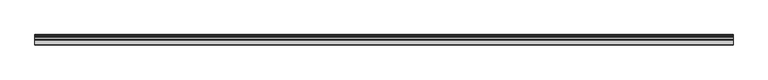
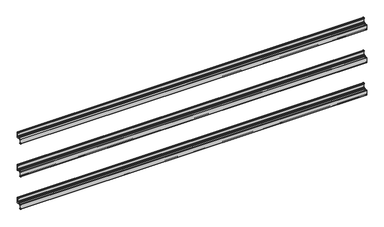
"""IFC4 building model written with IfcOpenShell, lengths in millimetres: fastener geometry."""

from ifc_helpers import new_model, si_unit, frame, origin, place, context, project, spatial, polyline, circle_curve, outline, extrude, source, transform, mapped, element, save
from ifc_brep_helpers import plane_surface, cylinder_surface, revolved_surface, advanced_brep


def fastener_f7e8d427(model_context):
    return source(origin(), model_context, "Body", "SolidModel", [
        advanced_brep(
        [(2540.0, -3.556, 1898.269), (2540.0, -3.556, 1867.281), (2540.0, -5.2832, 1867.281), (2540.0, -5.2832, 1871.472), (2540.0, -7.3152, 1871.472), (2540.0, -7.3152, 1867.281), (2540.0, -8.0772, 1866.519), (2540.0, -17.7601563, 1866.519), (2540.0, -17.7601563, 1867.3674433), (2540.0, -20.4288947, 1867.3674433), (2540.0, -20.4288947, 1866.519), (2540.0, -37.3379766, 1866.519), (2540.0, -38.0999766, 1865.757), (2540.0, -38.1, 1829.5196758), (2540.0, -37.3379766, 1828.8), (2540.0, -33.7057766, 1828.8), (2540.0, -31.6737766, 1830.832), (2540.0, -31.6737766, 1833.118), (2540.0, -33.7057766, 1833.118), (2540.0, -33.7057766, 1832.102), (2540.0, -35.4329766, 1832.102), (2540.0, -35.4329766, 1863.09), (2540.0, -33.7057766, 1863.09), (2540.0, -33.7057766, 1858.899), (2540.0, -31.6737766, 1858.899), (2540.0, -31.6737766, 1863.09), (2540.0, -30.9117766, 1863.852), (2540.0, -20.4279799, 1863.852), (2540.0, -20.4279799, 1863.0030993), (2540.0, -17.7601563, 1863.0030993), (2540.0, -17.7601563, 1863.852), (2540.0, -3.429, 1863.852), (2540.0, -2.667, 1863.09), (2540.0, -2.667, 1856.994), (2540.0, 0.0, 1856.994), (2540.0, 0.0, 1900.809), (2540.0, -0.762, 1901.571), (2540.0, -5.2832, 1901.571), (2540.0, -7.3152, 1899.539), (2540.0, -7.3152, 1897.253), (2540.0, -5.2832, 1897.253), (2540.0, -5.2832, 1898.269), (0.0, -3.556, 1898.269), (0.0, -5.2832, 1898.269), (0.0, -5.2832, 1897.253), (0.0, -7.3152, 1897.253), (0.0, -7.3152, 1899.539), (0.0, -5.2832, 1901.571), (0.0, -0.762, 1901.571), (0.0, 0.0, 1900.809), (0.0, 0.0, 1856.994), (0.0, -2.667, 1856.994), (0.0, -2.667, 1863.09), (0.0, -3.429, 1863.852), (0.0, -17.7601563, 1863.852), (0.0, -17.7601563, 1863.0030993), (0.0, -20.4279799, 1863.0030993), (0.0, -20.4279799, 1863.852), (0.0, -30.9117766, 1863.852), (0.0, -31.6737766, 1863.09), (0.0, -31.6737766, 1858.899), (0.0, -33.7057766, 1858.899), (0.0, -33.7057766, 1863.09), (0.0, -35.4329766, 1863.09), (0.0, -35.4329766, 1832.102), (0.0, -33.7057766, 1832.102), (0.0, -33.7057766, 1833.118), (0.0, -31.6737766, 1833.118), (0.0, -31.6737766, 1830.832), (0.0, -33.7057766, 1828.8), (0.0, -37.3379766, 1828.8), (0.0, -38.0999766, 1829.562), (0.0, -38.1, 1865.6242174), (0.0, -37.3379766, 1866.519), (0.0, -20.4288947, 1866.519), (0.0, -20.4288947, 1867.3674433), (0.0, -17.7601563, 1867.3674433), (0.0, -17.7601563, 1866.519), (0.0, -8.0772, 1866.519), (0.0, -7.3152, 1867.281), (0.0, -7.3152, 1871.472), (0.0, -5.2832, 1871.472), (0.0, -5.2832, 1867.281), (0.0, -3.556, 1867.281)],
        [
            (0, 1),
            (1, 2, circle_curve(frame((2540.0, -4.4196, 1867.281), z_axis=(-1.0, 0.0, 0.0), x_axis=(0.0, 1.0, 0.0)), 0.8636)),
            (2, 3),
            (3, 4, circle_curve(frame((2540.0, -6.2992, 1871.472), z_axis=(1.0, 0.0, 0.0), x_axis=(0.0, 1.0, 0.0)), 1.016)),
            (4, 5),
            (5, 6, circle_curve(frame((2540.0, -8.0772, 1867.281), z_axis=(-1.0, 0.0, 0.0), x_axis=(0.0, 1.0, 0.0)), 0.762)),
            (6, 7),
            (7, 8),
            (8, 9, circle_curve(frame((2540.0, -19.0945255, 1867.3674433), z_axis=(1.0, 0.0, 0.0), x_axis=(0.0, 1.0, 0.0)), 1.3343692)),
            (9, 10),
            (10, 11),
            (11, 12, circle_curve(frame((2540.0, -37.3379766, 1865.757), z_axis=(1.0, 0.0, 0.0), x_axis=(0.0, 1.0, 0.0)), 0.762)),
            (12, 13),
            (13, 14, circle_curve(frame((2540.0, -37.3379766, 1829.562), z_axis=(1.0, 0.0, 0.0), x_axis=(0.0, 1.0, 0.0)), 0.762)),
            (14, 15),
            (15, 16, circle_curve(frame((2540.0, -33.7057766, 1830.832), z_axis=(1.0, 0.0, 0.0), x_axis=(0.0, 1.0, 0.0)), 2.032)),
            (16, 17),
            (17, 18, circle_curve(frame((2540.0, -32.6897766, 1833.118), z_axis=(1.0, 0.0, 0.0), x_axis=(0.0, 1.0, 0.0)), 1.016)),
            (18, 19),
            (19, 20, circle_curve(frame((2540.0, -34.5693766, 1832.102), z_axis=(-1.0, 0.0, 0.0), x_axis=(0.0, 1.0, 0.0)), 0.8636)),
            (20, 21),
            (21, 22, circle_curve(frame((2540.0, -34.5693766, 1863.09), z_axis=(-1.0, 0.0, 0.0), x_axis=(0.0, 1.0, 0.0)), 0.8636)),
            (22, 23),
            (23, 24, circle_curve(frame((2540.0, -32.6897766, 1858.899), z_axis=(1.0, 0.0, 0.0), x_axis=(0.0, 1.0, 0.0)), 1.016)),
            (24, 25),
            (25, 26, circle_curve(frame((2540.0, -30.9117766, 1863.09), z_axis=(-1.0, 0.0, 0.0), x_axis=(0.0, 1.0, 0.0)), 0.762)),
            (26, 27),
            (27, 28),
            (28, 29, circle_curve(frame((2540.0, -19.0940681, 1863.0030993), z_axis=(1.0, 0.0, 0.0), x_axis=(0.0, 1.0, 0.0)), 1.3339118)),
            (29, 30),
            (30, 31),
            (31, 32, circle_curve(frame((2540.0, -3.429, 1863.09), z_axis=(-1.0, 0.0, 0.0), x_axis=(0.0, 1.0, 0.0)), 0.762)),
            (32, 33),
            (33, 34, circle_curve(frame((2540.0, -1.3335, 1856.994), z_axis=(1.0, 0.0, 0.0), x_axis=(0.0, 1.0, 0.0)), 1.3335)),
            (34, 35),
            (35, 36, circle_curve(frame((2540.0, -0.762, 1900.809), z_axis=(1.0, 0.0, 0.0), x_axis=(0.0, 1.0, 0.0)), 0.762)),
            (36, 37),
            (37, 38, circle_curve(frame((2540.0, -5.2832, 1899.539), z_axis=(1.0, 0.0, 0.0), x_axis=(0.0, 1.0, 0.0)), 2.032)),
            (38, 39),
            (39, 40, circle_curve(frame((2540.0, -6.2992, 1897.253), z_axis=(1.0, 0.0, 0.0), x_axis=(0.0, 1.0, 0.0)), 1.016)),
            (40, 41),
            (41, 0, circle_curve(frame((2540.0, -4.4196, 1898.269), z_axis=(-1.0, 0.0, 0.0), x_axis=(0.0, 1.0, 0.0)), 0.8636)),
            (42, 43, circle_curve(frame((0.0, -4.4196, 1898.269), z_axis=(1.0, 0.0, 0.0), x_axis=(0.0, 1.0, 0.0)), 0.8636)),
            (43, 44),
            (44, 45, circle_curve(frame((0.0, -6.2992, 1897.253), z_axis=(-1.0, 0.0, 0.0), x_axis=(0.0, 1.0, 0.0)), 1.016)),
            (45, 46),
            (46, 47, circle_curve(frame((0.0, -5.2832, 1899.539), z_axis=(-1.0, 0.0, 0.0), x_axis=(0.0, 1.0, 0.0)), 2.032)),
            (47, 48),
            (48, 49, circle_curve(frame((0.0, -0.762, 1900.809), z_axis=(-1.0, 0.0, 0.0), x_axis=(0.0, 1.0, 0.0)), 0.762)),
            (49, 50),
            (50, 51, circle_curve(frame((0.0, -1.3335, 1856.994), z_axis=(-1.0, 0.0, 0.0), x_axis=(0.0, 1.0, 0.0)), 1.3335)),
            (51, 52),
            (52, 53, circle_curve(frame((0.0, -3.429, 1863.09), z_axis=(1.0, 0.0, 0.0), x_axis=(0.0, 1.0, 0.0)), 0.762)),
            (53, 54),
            (54, 55),
            (55, 56, circle_curve(frame((0.0, -19.0940681, 1863.0030993), z_axis=(-1.0, 0.0, 0.0), x_axis=(0.0, 1.0, 0.0)), 1.3339118)),
            (56, 57),
            (57, 58),
            (58, 59, circle_curve(frame((0.0, -30.9117766, 1863.09), z_axis=(1.0, 0.0, 0.0), x_axis=(0.0, 1.0, 0.0)), 0.762)),
            (59, 60),
            (60, 61, circle_curve(frame((0.0, -32.6897766, 1858.899), z_axis=(-1.0, 0.0, 0.0), x_axis=(0.0, 1.0, 0.0)), 1.016)),
            (61, 62),
            (62, 63, circle_curve(frame((0.0, -34.5693766, 1863.09), z_axis=(1.0, 0.0, 0.0), x_axis=(0.0, 1.0, 0.0)), 0.8636)),
            (63, 64),
            (64, 65, circle_curve(frame((0.0, -34.5693766, 1832.102), z_axis=(1.0, 0.0, 0.0), x_axis=(0.0, 1.0, 0.0)), 0.8636)),
            (65, 66),
            (66, 67, circle_curve(frame((0.0, -32.6897766, 1833.118), z_axis=(-1.0, 0.0, 0.0), x_axis=(0.0, 1.0, 0.0)), 1.016)),
            (67, 68),
            (68, 69, circle_curve(frame((0.0, -33.7057766, 1830.832), z_axis=(-1.0, 0.0, 0.0), x_axis=(0.0, 1.0, 0.0)), 2.032)),
            (69, 70),
            (70, 71, circle_curve(frame((0.0, -37.3379766, 1829.562), z_axis=(-1.0, 0.0, 0.0), x_axis=(0.0, 1.0, 0.0)), 0.762)),
            (71, 72),
            (72, 73, circle_curve(frame((0.0, -37.3379766, 1865.757), z_axis=(-1.0, 0.0, 0.0), x_axis=(0.0, 1.0, 0.0)), 0.762)),
            (73, 74),
            (74, 75),
            (75, 76, circle_curve(frame((0.0, -19.0945255, 1867.3674433), z_axis=(-1.0, 0.0, 0.0), x_axis=(0.0, 1.0, 0.0)), 1.3343692)),
            (76, 77),
            (77, 78),
            (78, 79, circle_curve(frame((0.0, -8.0772, 1867.281), z_axis=(1.0, 0.0, 0.0), x_axis=(0.0, 1.0, 0.0)), 0.762)),
            (79, 80),
            (80, 81, circle_curve(frame((0.0, -6.2992, 1871.472), z_axis=(-1.0, 0.0, 0.0), x_axis=(0.0, 1.0, 0.0)), 1.016)),
            (81, 82),
            (82, 83, circle_curve(frame((0.0, -4.4196, 1867.281), z_axis=(1.0, 0.0, 0.0), x_axis=(0.0, 1.0, 0.0)), 0.8636)),
            (83, 42),
            (0, 42),
            (83, 1),
            (82, 2),
            (81, 3),
            (80, 4),
            (79, 5),
            (78, 6),
            (77, 7),
            (76, 8),
            (75, 9),
            (74, 10),
            (73, 11),
            (72, 12),
            (71, 13),
            (70, 14),
            (69, 15),
            (68, 16),
            (67, 17),
            (66, 18),
            (65, 19),
            (64, 20),
            (63, 21),
            (62, 22),
            (61, 23),
            (60, 24),
            (59, 25),
            (58, 26),
            (57, 27),
            (56, 28),
            (55, 29),
            (54, 30),
            (53, 31),
            (52, 32),
            (51, 33),
            (50, 34),
            (49, 35),
            (48, 36),
            (47, 37),
            (46, 38),
            (45, 39),
            (44, 40),
            (43, 41),
        ],
        [
            plane_surface(frame((2540.0, -3.556, 1867.281), z_axis=(1.0, 0.0, 0.0), x_axis=(0.0, 0.0, -1.0))),
            plane_surface(frame((0.0, -3.556, 1867.281), z_axis=(-1.0, 0.0, 0.0), x_axis=(0.0, 0.0, 1.0))),
            plane_surface(frame((2540.0, -3.556, 1898.269), z_axis=(0.0, -1.0, 0.0), x_axis=(-1.0, 0.0, 0.0))),
            revolved_surface(polyline([(0.0, -3.556, 1867.281), (2540.0, -3.556, 1867.281)]), (0.0, -4.4196, 1867.281), (-1.0, 0.0, 0.0)),
            plane_surface(frame((2540.0, -5.2832, 1867.281), z_axis=(0.0, 1.0, 0.0), x_axis=(-1.0, 0.0, 0.0))),
            cylinder_surface(frame((0.0, -6.2992, 1871.472), z_axis=(1.0, 0.0, 0.0), x_axis=(0.0, 1.0, 0.0)), 1.016),
            plane_surface(frame((2540.0, -7.3152, 1871.472), z_axis=(0.0, -1.0, 0.0), x_axis=(-1.0, 0.0, 0.0))),
            revolved_surface(polyline([(0.0, -7.315199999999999, 1867.281), (2540.0, -7.315199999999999, 1867.281)]), (0.0, -8.0772, 1867.281), (-1.0, 0.0, 0.0)),
            plane_surface(frame((2540.0, -8.0772, 1866.519), z_axis=(0.0, 0.0, 1.0), x_axis=(-1.0, 0.0, 0.0))),
            plane_surface(frame((2540.0, -17.7601563, 1866.519), z_axis=(0.0, 1.0, 0.0), x_axis=(-1.0, 0.0, 0.0))),
            cylinder_surface(frame((0.0, -19.0945255, 1867.3674433), z_axis=(1.0, 0.0, 0.0), x_axis=(0.0, 1.0, 0.0)), 1.3343692),
            plane_surface(frame((2540.0, -20.4288947, 1867.3674433), z_axis=(0.0, -1.0, 0.0), x_axis=(-1.0, 0.0, 0.0))),
            plane_surface(frame((2540.0, -20.4288947, 1866.519), z_axis=(0.0, 0.0, 1.0), x_axis=(-1.0, 0.0, 0.0))),
            cylinder_surface(frame((0.0, -37.3379766, 1865.757), z_axis=(1.0, 0.0, 0.0), x_axis=(0.0, 1.0, 0.0)), 0.762),
            plane_surface(frame((2540.0, -38.1, 1865.6242174), z_axis=(0.0, -1.0, 0.0), x_axis=(-1.0, 0.0, 0.0))),
            cylinder_surface(frame((0.0, -37.3379766, 1829.562), z_axis=(1.0, 0.0, 0.0), x_axis=(0.0, 1.0, 0.0)), 0.762),
            plane_surface(frame((2540.0, -37.3379766, 1828.8), z_axis=(0.0, 1.080720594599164e-12, -1.0), x_axis=(-1.0, 0.0, 0.0))),
            cylinder_surface(frame((0.0, -33.7057766, 1830.832), z_axis=(1.0, 0.0, 0.0), x_axis=(0.0, 1.0, 0.0)), 2.032),
            plane_surface(frame((2540.0, -31.6737766, 1830.832), z_axis=(0.0, 1.0, 0.0), x_axis=(-1.0, 0.0, 0.0))),
            cylinder_surface(frame((0.0, -32.6897766, 1833.118), z_axis=(1.0, 0.0, 0.0), x_axis=(0.0, 1.0, 0.0)), 1.016),
            plane_surface(frame((2540.0, -33.7057766, 1833.118), z_axis=(0.0, -1.0, 0.0), x_axis=(-1.0, 0.0, 0.0))),
            revolved_surface(polyline([(0.0, -33.7057766, 1832.102), (2540.0, -33.7057766, 1832.102)]), (0.0, -34.5693766, 1832.102), (-1.0, 0.0, 0.0)),
            plane_surface(frame((2540.0, -35.4329766, 1832.102), z_axis=(0.0, 1.0, 0.0), x_axis=(-1.0, 0.0, 0.0))),
            revolved_surface(polyline([(0.0, -33.7057766, 1863.09), (2540.0, -33.7057766, 1863.09)]), (0.0, -34.5693766, 1863.09), (-1.0, 0.0, 0.0)),
            plane_surface(frame((2540.0, -33.7057766, 1863.09), z_axis=(0.0, -1.0, 0.0), x_axis=(-1.0, 0.0, 0.0))),
            cylinder_surface(frame((0.0, -32.6897766, 1858.899), z_axis=(1.0, 0.0, 0.0), x_axis=(0.0, 1.0, 0.0)), 1.016),
            plane_surface(frame((2540.0, -31.6737766, 1858.899), z_axis=(0.0, 1.0, 0.0), x_axis=(-1.0, 0.0, 0.0))),
            revolved_surface(polyline([(0.0, -30.1497766, 1863.09), (2540.0, -30.1497766, 1863.09)]), (0.0, -30.9117766, 1863.09), (-1.0, 0.0, 0.0)),
            plane_surface(frame((2540.0, -30.9117766, 1863.852), z_axis=(0.0, 0.0, -1.0), x_axis=(-1.0, 0.0, 0.0))),
            plane_surface(frame((2540.0, -20.4279799, 1863.852), z_axis=(0.0, -1.0, 0.0), x_axis=(-1.0, 0.0, 0.0))),
            cylinder_surface(frame((0.0, -19.0940681, 1863.0030993), z_axis=(1.0, 0.0, 0.0), x_axis=(0.0, 1.0, 0.0)), 1.3339118),
            plane_surface(frame((2540.0, -17.7601563, 1863.0030993), z_axis=(0.0, 1.0, 0.0), x_axis=(-1.0, 0.0, 0.0))),
            plane_surface(frame((2540.0, -17.7601563, 1863.852), z_axis=(0.0, 0.0, -1.0), x_axis=(-1.0, 0.0, 0.0))),
            revolved_surface(polyline([(0.0, -2.667, 1863.09), (2540.0, -2.667, 1863.09)]), (0.0, -3.429, 1863.09), (-1.0, 0.0, 0.0)),
            plane_surface(frame((2540.0, -2.667, 1863.09), z_axis=(0.0, -1.0, 0.0), x_axis=(-1.0, 0.0, 0.0))),
            cylinder_surface(frame((0.0, -1.3335, 1856.994), z_axis=(1.0, 0.0, 0.0), x_axis=(0.0, 1.0, 0.0)), 1.3335),
            plane_surface(frame((2540.0, 0.0, 1856.994), z_axis=(0.0, 1.0, 0.0), x_axis=(-1.0, 0.0, 0.0))),
            cylinder_surface(frame((0.0, -0.762, 1900.809), z_axis=(1.0, 0.0, 0.0), x_axis=(0.0, 1.0, 0.0)), 0.762),
            plane_surface(frame((2540.0, -0.762, 1901.571), z_axis=(0.0, 1.6915308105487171e-12, 1.0), x_axis=(-1.0, 0.0, 0.0))),
            cylinder_surface(frame((0.0, -5.2832, 1899.539), z_axis=(1.0, 0.0, 0.0), x_axis=(0.0, 1.0, 0.0)), 2.032),
            plane_surface(frame((2540.0, -7.3152, 1899.539), z_axis=(0.0, -1.0, 0.0), x_axis=(-1.0, 0.0, 0.0))),
            cylinder_surface(frame((0.0, -6.2992, 1897.253), z_axis=(1.0, 0.0, 0.0), x_axis=(0.0, 1.0, 0.0)), 1.016),
            plane_surface(frame((2540.0, -5.2832, 1897.253), z_axis=(0.0, 1.0, 0.0), x_axis=(-1.0, 0.0, 0.0))),
            revolved_surface(polyline([(0.0, -3.556, 1898.269), (2540.0, -3.556, 1898.269)]), (0.0, -4.4196, 1898.269), (-1.0, 0.0, 0.0)),
        ],
        [
            (0, [[1, 2, 3, 4, 5, 6, 7, 8, 9, 10, 11, 12, 13, 14, 15, 16, 17, 18, 19, 20, 21, 22, 23, 24, 25, 26, 27, 28, 29, 30, 31, 32, 33, 34, 35, 36, 37, 38, 39, 40, 41, 42]]),
            (1, [[43, 44, 45, 46, 47, 48, 49, 50, 51, 52, 53, 54, 55, 56, 57, 58, 59, 60, 61, 62, 63, 64, 65, 66, 67, 68, 69, 70, 71, 72, 73, 74, 75, 76, 77, 78, 79, 80, 81, 82, 83, 84]]),
            (2, [[-1, 85, -84, 86]]),
            (3, [[-2, -86, -83, 87]]),
            (4, [[-3, -87, -82, 88]]),
            (5, [[-4, -88, -81, 89]]),
            (6, [[-5, -89, -80, 90]]),
            (7, [[-6, -90, -79, 91]]),
            (8, [[-7, -91, -78, 92]]),
            (9, [[-8, -92, -77, 93]]),
            (10, [[-9, -93, -76, 94]]),
            (11, [[-10, -94, -75, 95]]),
            (12, [[-11, -95, -74, 96]]),
            (13, [[-12, -96, -73, 97]]),
            (14, [[-13, -97, -72, 98]]),
            (15, [[-14, -98, -71, 99]]),
            (16, [[-15, -99, -70, 100]]),
            (17, [[-16, -100, -69, 101]]),
            (18, [[-17, -101, -68, 102]]),
            (19, [[-18, -102, -67, 103]]),
            (20, [[-19, -103, -66, 104]]),
            (21, [[-20, -104, -65, 105]]),
            (22, [[-21, -105, -64, 106]]),
            (23, [[-22, -106, -63, 107]]),
            (24, [[-23, -107, -62, 108]]),
            (25, [[-24, -108, -61, 109]]),
            (26, [[-25, -109, -60, 110]]),
            (27, [[-26, -110, -59, 111]]),
            (28, [[-27, -111, -58, 112]]),
            (29, [[-28, -112, -57, 113]]),
            (30, [[-29, -113, -56, 114]]),
            (31, [[-30, -114, -55, 115]]),
            (32, [[-31, -115, -54, 116]]),
            (33, [[-32, -116, -53, 117]]),
            (34, [[-33, -117, -52, 118]]),
            (35, [[-34, -118, -51, 119]]),
            (36, [[-35, -119, -50, 120]]),
            (37, [[-36, -120, -49, 121]]),
            (38, [[-37, -121, -48, 122]]),
            (39, [[-38, -122, -47, 123]]),
            (40, [[-39, -123, -46, 124]]),
            (41, [[-40, -124, -45, 125]]),
            (42, [[-41, -125, -44, 126]]),
            (43, [[-42, -126, -43, -85]]),
        ],
    ),
        extrude(outline(polyline([(2540.0, -3.556), (2540.0, -5.2832), (0.0, -5.2832), (0.0, -3.556), (2540.0, -3.556)])), frame((0.0, 0.0, 1867.281), z_axis=(0.0, 0.0, 1.0), x_axis=(1.0, 0.0, 0.0)), (0.0, 0.0, 1.0), 30.988),
        extrude(outline(polyline([(2540.0, -33.7057766), (2540.0, -35.4329766), (0.0, -35.4329766), (0.0, -33.7057766), (2540.0, -33.7057766)])), frame((0.0, 0.0, 1832.102), z_axis=(0.0, 0.0, 1.0), x_axis=(1.0, 0.0, 0.0)), (0.0, 0.0, 1.0), 30.988),
        advanced_brep(
        [(2540.0, -3.556, 1644.269), (2540.0, -3.556, 1613.281), (2540.0, -5.2832, 1613.281), (2540.0, -5.2832, 1617.472), (2540.0, -7.3152, 1617.472), (2540.0, -7.3152, 1613.281), (2540.0, -8.0772, 1612.519), (2540.0, -17.7601563, 1612.519), (2540.0, -17.7601563, 1613.3674433), (2540.0, -20.4288947, 1613.3674433), (2540.0, -20.4288947, 1612.519), (2540.0, -37.3379766, 1612.519), (2540.0, -38.0999766, 1611.757), (2540.0, -38.1, 1575.5196758), (2540.0, -37.3379766, 1574.8), (2540.0, -33.7057766, 1574.8), (2540.0, -31.6737766, 1576.832), (2540.0, -31.6737766, 1579.118), (2540.0, -33.7057766, 1579.118), (2540.0, -33.7057766, 1578.102), (2540.0, -35.4329766, 1578.102), (2540.0, -35.4329766, 1609.09), (2540.0, -33.7057766, 1609.09), (2540.0, -33.7057766, 1604.899), (2540.0, -31.6737766, 1604.899), (2540.0, -31.6737766, 1609.09), (2540.0, -30.9117766, 1609.852), (2540.0, -20.4279799, 1609.852), (2540.0, -20.4279799, 1609.0030993), (2540.0, -17.7601563, 1609.0030993), (2540.0, -17.7601563, 1609.852), (2540.0, -3.429, 1609.852), (2540.0, -2.667, 1609.09), (2540.0, -2.667, 1602.994), (2540.0, 0.0, 1602.994), (2540.0, 0.0, 1646.809), (2540.0, -0.762, 1647.571), (2540.0, -5.2832, 1647.571), (2540.0, -7.3152, 1645.539), (2540.0, -7.3152, 1643.253), (2540.0, -5.2832, 1643.253), (2540.0, -5.2832, 1644.269), (0.0, -3.556, 1644.269), (0.0, -5.2832, 1644.269), (0.0, -5.2832, 1643.253), (0.0, -7.3152, 1643.253), (0.0, -7.3152, 1645.539), (0.0, -5.2832, 1647.571), (0.0, -0.762, 1647.571), (0.0, 0.0, 1646.809), (0.0, 0.0, 1602.994), (0.0, -2.667, 1602.994), (0.0, -2.667, 1609.09), (0.0, -3.429, 1609.852), (0.0, -17.7601563, 1609.852), (0.0, -17.7601563, 1609.0030993), (0.0, -20.4279799, 1609.0030993), (0.0, -20.4279799, 1609.852), (0.0, -30.9117766, 1609.852), (0.0, -31.6737766, 1609.09), (0.0, -31.6737766, 1604.899), (0.0, -33.7057766, 1604.899), (0.0, -33.7057766, 1609.09), (0.0, -35.4329766, 1609.09), (0.0, -35.4329766, 1578.102), (0.0, -33.7057766, 1578.102), (0.0, -33.7057766, 1579.118), (0.0, -31.6737766, 1579.118), (0.0, -31.6737766, 1576.832), (0.0, -33.7057766, 1574.8), (0.0, -37.3379766, 1574.8), (0.0, -38.0999766, 1575.562), (0.0, -38.1, 1611.6242174), (0.0, -37.3379766, 1612.519), (0.0, -20.4288947, 1612.519), (0.0, -20.4288947, 1613.3674433), (0.0, -17.7601563, 1613.3674433), (0.0, -17.7601563, 1612.519), (0.0, -8.0772, 1612.519), (0.0, -7.3152, 1613.281), (0.0, -7.3152, 1617.472), (0.0, -5.2832, 1617.472), (0.0, -5.2832, 1613.281), (0.0, -3.556, 1613.281)],
        [
            (0, 1),
            (1, 2, circle_curve(frame((2540.0, -4.4196, 1613.281), z_axis=(-1.0, 0.0, 0.0), x_axis=(0.0, 1.0, 0.0)), 0.8636)),
            (2, 3),
            (3, 4, circle_curve(frame((2540.0, -6.2992, 1617.472), z_axis=(1.0, 0.0, 0.0), x_axis=(0.0, 1.0, 0.0)), 1.016)),
            (4, 5),
            (5, 6, circle_curve(frame((2540.0, -8.0772, 1613.281), z_axis=(-1.0, 0.0, 0.0), x_axis=(0.0, 1.0, 0.0)), 0.762)),
            (6, 7),
            (7, 8),
            (8, 9, circle_curve(frame((2540.0, -19.0945255, 1613.3674433), z_axis=(1.0, 0.0, 0.0), x_axis=(0.0, 1.0, 0.0)), 1.3343692)),
            (9, 10),
            (10, 11),
            (11, 12, circle_curve(frame((2540.0, -37.3379766, 1611.757), z_axis=(1.0, 0.0, 0.0), x_axis=(0.0, 1.0, 0.0)), 0.762)),
            (12, 13),
            (13, 14, circle_curve(frame((2540.0, -37.3379766, 1575.562), z_axis=(1.0, 0.0, 0.0), x_axis=(0.0, 1.0, 0.0)), 0.762)),
            (14, 15),
            (15, 16, circle_curve(frame((2540.0, -33.7057766, 1576.832), z_axis=(1.0, 0.0, 0.0), x_axis=(0.0, 1.0, 0.0)), 2.032)),
            (16, 17),
            (17, 18, circle_curve(frame((2540.0, -32.6897766, 1579.118), z_axis=(1.0, 0.0, 0.0), x_axis=(0.0, 1.0, 0.0)), 1.016)),
            (18, 19),
            (19, 20, circle_curve(frame((2540.0, -34.5693766, 1578.102), z_axis=(-1.0, 0.0, 0.0), x_axis=(0.0, 1.0, 0.0)), 0.8636)),
            (20, 21),
            (21, 22, circle_curve(frame((2540.0, -34.5693766, 1609.09), z_axis=(-1.0, 0.0, 0.0), x_axis=(0.0, 1.0, 0.0)), 0.8636)),
            (22, 23),
            (23, 24, circle_curve(frame((2540.0, -32.6897766, 1604.899), z_axis=(1.0, 0.0, 0.0), x_axis=(0.0, 1.0, 0.0)), 1.016)),
            (24, 25),
            (25, 26, circle_curve(frame((2540.0, -30.9117766, 1609.09), z_axis=(-1.0, 0.0, 0.0), x_axis=(0.0, 1.0, 0.0)), 0.762)),
            (26, 27),
            (27, 28),
            (28, 29, circle_curve(frame((2540.0, -19.0940681, 1609.0030993), z_axis=(1.0, 0.0, 0.0), x_axis=(0.0, 1.0, 0.0)), 1.3339118)),
            (29, 30),
            (30, 31),
            (31, 32, circle_curve(frame((2540.0, -3.429, 1609.09), z_axis=(-1.0, 0.0, 0.0), x_axis=(0.0, 1.0, 0.0)), 0.762)),
            (32, 33),
            (33, 34, circle_curve(frame((2540.0, -1.3335, 1602.994), z_axis=(1.0, 0.0, 0.0), x_axis=(0.0, 1.0, 0.0)), 1.3335)),
            (34, 35),
            (35, 36, circle_curve(frame((2540.0, -0.762, 1646.809), z_axis=(1.0, 0.0, 0.0), x_axis=(0.0, 1.0, 0.0)), 0.762)),
            (36, 37),
            (37, 38, circle_curve(frame((2540.0, -5.2832, 1645.539), z_axis=(1.0, 0.0, 0.0), x_axis=(0.0, 1.0, 0.0)), 2.032)),
            (38, 39),
            (39, 40, circle_curve(frame((2540.0, -6.2992, 1643.253), z_axis=(1.0, 0.0, 0.0), x_axis=(0.0, 1.0, 0.0)), 1.016)),
            (40, 41),
            (41, 0, circle_curve(frame((2540.0, -4.4196, 1644.269), z_axis=(-1.0, 0.0, 0.0), x_axis=(0.0, 1.0, 0.0)), 0.8636)),
            (42, 43, circle_curve(frame((0.0, -4.4196, 1644.269), z_axis=(1.0, 0.0, 0.0), x_axis=(0.0, 1.0, 0.0)), 0.8636)),
            (43, 44),
            (44, 45, circle_curve(frame((0.0, -6.2992, 1643.253), z_axis=(-1.0, 0.0, 0.0), x_axis=(0.0, 1.0, 0.0)), 1.016)),
            (45, 46),
            (46, 47, circle_curve(frame((0.0, -5.2832, 1645.539), z_axis=(-1.0, 0.0, 0.0), x_axis=(0.0, 1.0, 0.0)), 2.032)),
            (47, 48),
            (48, 49, circle_curve(frame((0.0, -0.762, 1646.809), z_axis=(-1.0, 0.0, 0.0), x_axis=(0.0, 1.0, 0.0)), 0.762)),
            (49, 50),
            (50, 51, circle_curve(frame((0.0, -1.3335, 1602.994), z_axis=(-1.0, 0.0, 0.0), x_axis=(0.0, 1.0, 0.0)), 1.3335)),
            (51, 52),
            (52, 53, circle_curve(frame((0.0, -3.429, 1609.09), z_axis=(1.0, 0.0, 0.0), x_axis=(0.0, 1.0, 0.0)), 0.762)),
            (53, 54),
            (54, 55),
            (55, 56, circle_curve(frame((0.0, -19.0940681, 1609.0030993), z_axis=(-1.0, 0.0, 0.0), x_axis=(0.0, 1.0, 0.0)), 1.3339118)),
            (56, 57),
            (57, 58),
            (58, 59, circle_curve(frame((0.0, -30.9117766, 1609.09), z_axis=(1.0, 0.0, 0.0), x_axis=(0.0, 1.0, 0.0)), 0.762)),
            (59, 60),
            (60, 61, circle_curve(frame((0.0, -32.6897766, 1604.899), z_axis=(-1.0, 0.0, 0.0), x_axis=(0.0, 1.0, 0.0)), 1.016)),
            (61, 62),
            (62, 63, circle_curve(frame((0.0, -34.5693766, 1609.09), z_axis=(1.0, 0.0, 0.0), x_axis=(0.0, 1.0, 0.0)), 0.8636)),
            (63, 64),
            (64, 65, circle_curve(frame((0.0, -34.5693766, 1578.102), z_axis=(1.0, 0.0, 0.0), x_axis=(0.0, 1.0, 0.0)), 0.8636)),
            (65, 66),
            (66, 67, circle_curve(frame((0.0, -32.6897766, 1579.118), z_axis=(-1.0, 0.0, 0.0), x_axis=(0.0, 1.0, 0.0)), 1.016)),
            (67, 68),
            (68, 69, circle_curve(frame((0.0, -33.7057766, 1576.832), z_axis=(-1.0, 0.0, 0.0), x_axis=(0.0, 1.0, 0.0)), 2.032)),
            (69, 70),
            (70, 71, circle_curve(frame((0.0, -37.3379766, 1575.562), z_axis=(-1.0, 0.0, 0.0), x_axis=(0.0, 1.0, 0.0)), 0.762)),
            (71, 72),
            (72, 73, circle_curve(frame((0.0, -37.3379766, 1611.757), z_axis=(-1.0, 0.0, 0.0), x_axis=(0.0, 1.0, 0.0)), 0.762)),
            (73, 74),
            (74, 75),
            (75, 76, circle_curve(frame((0.0, -19.0945255, 1613.3674433), z_axis=(-1.0, 0.0, 0.0), x_axis=(0.0, 1.0, 0.0)), 1.3343692)),
            (76, 77),
            (77, 78),
            (78, 79, circle_curve(frame((0.0, -8.0772, 1613.281), z_axis=(1.0, 0.0, 0.0), x_axis=(0.0, 1.0, 0.0)), 0.762)),
            (79, 80),
            (80, 81, circle_curve(frame((0.0, -6.2992, 1617.472), z_axis=(-1.0, 0.0, 0.0), x_axis=(0.0, 1.0, 0.0)), 1.016)),
            (81, 82),
            (82, 83, circle_curve(frame((0.0, -4.4196, 1613.281), z_axis=(1.0, 0.0, 0.0), x_axis=(0.0, 1.0, 0.0)), 0.8636)),
            (83, 42),
            (0, 42),
            (83, 1),
            (82, 2),
            (81, 3),
            (80, 4),
            (79, 5),
            (78, 6),
            (77, 7),
            (76, 8),
            (75, 9),
            (74, 10),
            (73, 11),
            (72, 12),
            (71, 13),
            (70, 14),
            (69, 15),
            (68, 16),
            (67, 17),
            (66, 18),
            (65, 19),
            (64, 20),
            (63, 21),
            (62, 22),
            (61, 23),
            (60, 24),
            (59, 25),
            (58, 26),
            (57, 27),
            (56, 28),
            (55, 29),
            (54, 30),
            (53, 31),
            (52, 32),
            (51, 33),
            (50, 34),
            (49, 35),
            (48, 36),
            (47, 37),
            (46, 38),
            (45, 39),
            (44, 40),
            (43, 41),
        ],
        [
            plane_surface(frame((2540.0, -3.556, 1613.281), z_axis=(1.0, 0.0, 0.0), x_axis=(0.0, 0.0, -1.0))),
            plane_surface(frame((0.0, -3.556, 1613.281), z_axis=(-1.0, 0.0, 0.0), x_axis=(0.0, 0.0, 1.0))),
            plane_surface(frame((2540.0, -3.556, 1644.269), z_axis=(0.0, -1.0, 0.0), x_axis=(-1.0, 0.0, 0.0))),
            revolved_surface(polyline([(0.0, -3.556, 1613.281), (2540.0, -3.556, 1613.281)]), (0.0, -4.4196, 1613.281), (-1.0, 0.0, 0.0)),
            plane_surface(frame((2540.0, -5.2832, 1613.281), z_axis=(0.0, 1.0, 0.0), x_axis=(-1.0, 0.0, 0.0))),
            cylinder_surface(frame((0.0, -6.2992, 1617.472), z_axis=(1.0, 0.0, 0.0), x_axis=(0.0, 1.0, 0.0)), 1.016),
            plane_surface(frame((2540.0, -7.3152, 1617.472), z_axis=(0.0, -1.0, 0.0), x_axis=(-1.0, 0.0, 0.0))),
            revolved_surface(polyline([(0.0, -7.315199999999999, 1613.281), (2540.0, -7.315199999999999, 1613.281)]), (0.0, -8.0772, 1613.281), (-1.0, 0.0, 0.0)),
            plane_surface(frame((2540.0, -8.0772, 1612.519), z_axis=(0.0, 0.0, 1.0), x_axis=(-1.0, 0.0, 0.0))),
            plane_surface(frame((2540.0, -17.7601563, 1612.519), z_axis=(0.0, 1.0, 0.0), x_axis=(-1.0, 0.0, 0.0))),
            cylinder_surface(frame((0.0, -19.0945255, 1613.3674433), z_axis=(1.0, 0.0, 0.0), x_axis=(0.0, 1.0, 0.0)), 1.3343692),
            plane_surface(frame((2540.0, -20.4288947, 1613.3674433), z_axis=(0.0, -1.0, 0.0), x_axis=(-1.0, 0.0, 0.0))),
            plane_surface(frame((2540.0, -20.4288947, 1612.519), z_axis=(0.0, 0.0, 1.0), x_axis=(-1.0, 0.0, 0.0))),
            cylinder_surface(frame((0.0, -37.3379766, 1611.757), z_axis=(1.0, 0.0, 0.0), x_axis=(0.0, 1.0, 0.0)), 0.762),
            plane_surface(frame((2540.0, -38.1, 1611.6242174), z_axis=(0.0, -1.0, 0.0), x_axis=(-1.0, 0.0, 0.0))),
            cylinder_surface(frame((0.0, -37.3379766, 1575.562), z_axis=(1.0, 0.0, 0.0), x_axis=(0.0, 1.0, 0.0)), 0.762),
            plane_surface(frame((2540.0, -37.3379766, 1574.8), z_axis=(0.0, 1.080720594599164e-12, -1.0), x_axis=(-1.0, 0.0, 0.0))),
            cylinder_surface(frame((0.0, -33.7057766, 1576.832), z_axis=(1.0, 0.0, 0.0), x_axis=(0.0, 1.0, 0.0)), 2.032),
            plane_surface(frame((2540.0, -31.6737766, 1576.832), z_axis=(0.0, 1.0, 0.0), x_axis=(-1.0, 0.0, 0.0))),
            cylinder_surface(frame((0.0, -32.6897766, 1579.118), z_axis=(1.0, 0.0, 0.0), x_axis=(0.0, 1.0, 0.0)), 1.016),
            plane_surface(frame((2540.0, -33.7057766, 1579.118), z_axis=(0.0, -1.0, 0.0), x_axis=(-1.0, 0.0, 0.0))),
            revolved_surface(polyline([(0.0, -33.7057766, 1578.102), (2540.0, -33.7057766, 1578.102)]), (0.0, -34.5693766, 1578.102), (-1.0, 0.0, 0.0)),
            plane_surface(frame((2540.0, -35.4329766, 1578.102), z_axis=(0.0, 1.0, 0.0), x_axis=(-1.0, 0.0, 0.0))),
            revolved_surface(polyline([(0.0, -33.7057766, 1609.09), (2540.0, -33.7057766, 1609.09)]), (0.0, -34.5693766, 1609.09), (-1.0, 0.0, 0.0)),
            plane_surface(frame((2540.0, -33.7057766, 1609.09), z_axis=(0.0, -1.0, 0.0), x_axis=(-1.0, 0.0, 0.0))),
            cylinder_surface(frame((0.0, -32.6897766, 1604.899), z_axis=(1.0, 0.0, 0.0), x_axis=(0.0, 1.0, 0.0)), 1.016),
            plane_surface(frame((2540.0, -31.6737766, 1604.899), z_axis=(0.0, 1.0, 0.0), x_axis=(-1.0, 0.0, 0.0))),
            revolved_surface(polyline([(0.0, -30.1497766, 1609.09), (2540.0, -30.1497766, 1609.09)]), (0.0, -30.9117766, 1609.09), (-1.0, 0.0, 0.0)),
            plane_surface(frame((2540.0, -30.9117766, 1609.852), z_axis=(0.0, 0.0, -1.0), x_axis=(-1.0, 0.0, 0.0))),
            plane_surface(frame((2540.0, -20.4279799, 1609.852), z_axis=(0.0, -1.0, 0.0), x_axis=(-1.0, 0.0, 0.0))),
            cylinder_surface(frame((0.0, -19.0940681, 1609.0030993), z_axis=(1.0, 0.0, 0.0), x_axis=(0.0, 1.0, 0.0)), 1.3339118),
            plane_surface(frame((2540.0, -17.7601563, 1609.0030993), z_axis=(0.0, 1.0, 0.0), x_axis=(-1.0, 0.0, 0.0))),
            plane_surface(frame((2540.0, -17.7601563, 1609.852), z_axis=(0.0, 0.0, -1.0), x_axis=(-1.0, 0.0, 0.0))),
            revolved_surface(polyline([(0.0, -2.667, 1609.09), (2540.0, -2.667, 1609.09)]), (0.0, -3.429, 1609.09), (-1.0, 0.0, 0.0)),
            plane_surface(frame((2540.0, -2.667, 1609.09), z_axis=(0.0, -1.0, 0.0), x_axis=(-1.0, 0.0, 0.0))),
            cylinder_surface(frame((0.0, -1.3335, 1602.994), z_axis=(1.0, 0.0, 0.0), x_axis=(0.0, 1.0, 0.0)), 1.3335),
            plane_surface(frame((2540.0, 0.0, 1602.994), z_axis=(0.0, 1.0, 0.0), x_axis=(-1.0, 0.0, 0.0))),
            cylinder_surface(frame((0.0, -0.762, 1646.809), z_axis=(1.0, 0.0, 0.0), x_axis=(0.0, 1.0, 0.0)), 0.762),
            plane_surface(frame((2540.0, -0.762, 1647.571), z_axis=(0.0, 1.6915308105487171e-12, 1.0), x_axis=(-1.0, 0.0, 0.0))),
            cylinder_surface(frame((0.0, -5.2832, 1645.539), z_axis=(1.0, 0.0, 0.0), x_axis=(0.0, 1.0, 0.0)), 2.032),
            plane_surface(frame((2540.0, -7.3152, 1645.539), z_axis=(0.0, -1.0, 0.0), x_axis=(-1.0, 0.0, 0.0))),
            cylinder_surface(frame((0.0, -6.2992, 1643.253), z_axis=(1.0, 0.0, 0.0), x_axis=(0.0, 1.0, 0.0)), 1.016),
            plane_surface(frame((2540.0, -5.2832, 1643.253), z_axis=(0.0, 1.0, 0.0), x_axis=(-1.0, 0.0, 0.0))),
            revolved_surface(polyline([(0.0, -3.556, 1644.269), (2540.0, -3.556, 1644.269)]), (0.0, -4.4196, 1644.269), (-1.0, 0.0, 0.0)),
        ],
        [
            (0, [[1, 2, 3, 4, 5, 6, 7, 8, 9, 10, 11, 12, 13, 14, 15, 16, 17, 18, 19, 20, 21, 22, 23, 24, 25, 26, 27, 28, 29, 30, 31, 32, 33, 34, 35, 36, 37, 38, 39, 40, 41, 42]]),
            (1, [[43, 44, 45, 46, 47, 48, 49, 50, 51, 52, 53, 54, 55, 56, 57, 58, 59, 60, 61, 62, 63, 64, 65, 66, 67, 68, 69, 70, 71, 72, 73, 74, 75, 76, 77, 78, 79, 80, 81, 82, 83, 84]]),
            (2, [[-1, 85, -84, 86]]),
            (3, [[-2, -86, -83, 87]]),
            (4, [[-3, -87, -82, 88]]),
            (5, [[-4, -88, -81, 89]]),
            (6, [[-5, -89, -80, 90]]),
            (7, [[-6, -90, -79, 91]]),
            (8, [[-7, -91, -78, 92]]),
            (9, [[-8, -92, -77, 93]]),
            (10, [[-9, -93, -76, 94]]),
            (11, [[-10, -94, -75, 95]]),
            (12, [[-11, -95, -74, 96]]),
            (13, [[-12, -96, -73, 97]]),
            (14, [[-13, -97, -72, 98]]),
            (15, [[-14, -98, -71, 99]]),
            (16, [[-15, -99, -70, 100]]),
            (17, [[-16, -100, -69, 101]]),
            (18, [[-17, -101, -68, 102]]),
            (19, [[-18, -102, -67, 103]]),
            (20, [[-19, -103, -66, 104]]),
            (21, [[-20, -104, -65, 105]]),
            (22, [[-21, -105, -64, 106]]),
            (23, [[-22, -106, -63, 107]]),
            (24, [[-23, -107, -62, 108]]),
            (25, [[-24, -108, -61, 109]]),
            (26, [[-25, -109, -60, 110]]),
            (27, [[-26, -110, -59, 111]]),
            (28, [[-27, -111, -58, 112]]),
            (29, [[-28, -112, -57, 113]]),
            (30, [[-29, -113, -56, 114]]),
            (31, [[-30, -114, -55, 115]]),
            (32, [[-31, -115, -54, 116]]),
            (33, [[-32, -116, -53, 117]]),
            (34, [[-33, -117, -52, 118]]),
            (35, [[-34, -118, -51, 119]]),
            (36, [[-35, -119, -50, 120]]),
            (37, [[-36, -120, -49, 121]]),
            (38, [[-37, -121, -48, 122]]),
            (39, [[-38, -122, -47, 123]]),
            (40, [[-39, -123, -46, 124]]),
            (41, [[-40, -124, -45, 125]]),
            (42, [[-41, -125, -44, 126]]),
            (43, [[-42, -126, -43, -85]]),
        ],
    ),
        extrude(outline(polyline([(2540.0, -3.556), (2540.0, -5.2832), (0.0, -5.2832), (0.0, -3.556), (2540.0, -3.556)])), frame((0.0, 0.0, 1613.281), z_axis=(0.0, 0.0, 1.0), x_axis=(1.0, 0.0, 0.0)), (0.0, 0.0, 1.0), 30.988),
        extrude(outline(polyline([(2540.0, -33.7057766), (2540.0, -35.4329766), (0.0, -35.4329766), (0.0, -33.7057766), (2540.0, -33.7057766)])), frame((0.0, 0.0, 1578.102), z_axis=(0.0, 0.0, 1.0), x_axis=(1.0, 0.0, 0.0)), (0.0, 0.0, 1.0), 30.988),
        advanced_brep(
        [(2540.0, -3.556, 1390.269), (2540.0, -3.556, 1359.281), (2540.0, -5.2832, 1359.281), (2540.0, -5.2832, 1363.472), (2540.0, -7.3152, 1363.472), (2540.0, -7.3152, 1359.281), (2540.0, -8.0772, 1358.519), (2540.0, -17.7601563, 1358.519), (2540.0, -17.7601563, 1359.3674433), (2540.0, -20.4288947, 1359.3674433), (2540.0, -20.4288947, 1358.519), (2540.0, -37.3379766, 1358.519), (2540.0, -38.0999766, 1357.757), (2540.0, -38.1, 1321.5196758), (2540.0, -37.3379766, 1320.8), (2540.0, -33.7057766, 1320.8), (2540.0, -31.6737766, 1322.832), (2540.0, -31.6737766, 1325.118), (2540.0, -33.7057766, 1325.118), (2540.0, -33.7057766, 1324.102), (2540.0, -35.4329766, 1324.102), (2540.0, -35.4329766, 1355.09), (2540.0, -33.7057766, 1355.09), (2540.0, -33.7057766, 1350.899), (2540.0, -31.6737766, 1350.899), (2540.0, -31.6737766, 1355.09), (2540.0, -30.9117766, 1355.852), (2540.0, -20.4279799, 1355.852), (2540.0, -20.4279799, 1355.0030993), (2540.0, -17.7601563, 1355.0030993), (2540.0, -17.7601563, 1355.852), (2540.0, -3.429, 1355.852), (2540.0, -2.667, 1355.09), (2540.0, -2.667, 1348.994), (2540.0, 0.0, 1348.994), (2540.0, 0.0, 1392.809), (2540.0, -0.762, 1393.571), (2540.0, -5.2832, 1393.571), (2540.0, -7.3152, 1391.539), (2540.0, -7.3152, 1389.253), (2540.0, -5.2832, 1389.253), (2540.0, -5.2832, 1390.269), (0.0, -3.556, 1390.269), (0.0, -5.2832, 1390.269), (0.0, -5.2832, 1389.253), (0.0, -7.3152, 1389.253), (0.0, -7.3152, 1391.539), (0.0, -5.2832, 1393.571), (0.0, -0.762, 1393.571), (0.0, 0.0, 1392.809), (0.0, 0.0, 1348.994), (0.0, -2.667, 1348.994), (0.0, -2.667, 1355.09), (0.0, -3.429, 1355.852), (0.0, -17.7601563, 1355.852), (0.0, -17.7601563, 1355.0030993), (0.0, -20.4279799, 1355.0030993), (0.0, -20.4279799, 1355.852), (0.0, -30.9117766, 1355.852), (0.0, -31.6737766, 1355.09), (0.0, -31.6737766, 1350.899), (0.0, -33.7057766, 1350.899), (0.0, -33.7057766, 1355.09), (0.0, -35.4329766, 1355.09), (0.0, -35.4329766, 1324.102), (0.0, -33.7057766, 1324.102), (0.0, -33.7057766, 1325.118), (0.0, -31.6737766, 1325.118), (0.0, -31.6737766, 1322.832), (0.0, -33.7057766, 1320.8), (0.0, -37.3379766, 1320.8), (0.0, -38.0999766, 1321.562), (0.0, -38.1, 1357.6242174), (0.0, -37.3379766, 1358.519), (0.0, -20.4288947, 1358.519), (0.0, -20.4288947, 1359.3674433), (0.0, -17.7601563, 1359.3674433), (0.0, -17.7601563, 1358.519), (0.0, -8.0772, 1358.519), (0.0, -7.3152, 1359.281), (0.0, -7.3152, 1363.472), (0.0, -5.2832, 1363.472), (0.0, -5.2832, 1359.281), (0.0, -3.556, 1359.281)],
        [
            (0, 1),
            (1, 2, circle_curve(frame((2540.0, -4.4196, 1359.281), z_axis=(-1.0, 0.0, 0.0), x_axis=(0.0, 1.0, 0.0)), 0.8636)),
            (2, 3),
            (3, 4, circle_curve(frame((2540.0, -6.2992, 1363.472), z_axis=(1.0, 0.0, 0.0), x_axis=(0.0, 1.0, 0.0)), 1.016)),
            (4, 5),
            (5, 6, circle_curve(frame((2540.0, -8.0772, 1359.281), z_axis=(-1.0, 0.0, 0.0), x_axis=(0.0, 1.0, 0.0)), 0.762)),
            (6, 7),
            (7, 8),
            (8, 9, circle_curve(frame((2540.0, -19.0945255, 1359.3674433), z_axis=(1.0, 0.0, 0.0), x_axis=(0.0, 1.0, 0.0)), 1.3343692)),
            (9, 10),
            (10, 11),
            (11, 12, circle_curve(frame((2540.0, -37.3379766, 1357.757), z_axis=(1.0, 0.0, 0.0), x_axis=(0.0, 1.0, 0.0)), 0.762)),
            (12, 13),
            (13, 14, circle_curve(frame((2540.0, -37.3379766, 1321.562), z_axis=(1.0, 0.0, 0.0), x_axis=(0.0, 1.0, 0.0)), 0.762)),
            (14, 15),
            (15, 16, circle_curve(frame((2540.0, -33.7057766, 1322.832), z_axis=(1.0, 0.0, 0.0), x_axis=(0.0, 1.0, 0.0)), 2.032)),
            (16, 17),
            (17, 18, circle_curve(frame((2540.0, -32.6897766, 1325.118), z_axis=(1.0, 0.0, 0.0), x_axis=(0.0, 1.0, 0.0)), 1.016)),
            (18, 19),
            (19, 20, circle_curve(frame((2540.0, -34.5693766, 1324.102), z_axis=(-1.0, 0.0, 0.0), x_axis=(0.0, 1.0, 0.0)), 0.8636)),
            (20, 21),
            (21, 22, circle_curve(frame((2540.0, -34.5693766, 1355.09), z_axis=(-1.0, 0.0, 0.0), x_axis=(0.0, 1.0, 0.0)), 0.8636)),
            (22, 23),
            (23, 24, circle_curve(frame((2540.0, -32.6897766, 1350.899), z_axis=(1.0, 0.0, 0.0), x_axis=(0.0, 1.0, 0.0)), 1.016)),
            (24, 25),
            (25, 26, circle_curve(frame((2540.0, -30.9117766, 1355.09), z_axis=(-1.0, 0.0, 0.0), x_axis=(0.0, 1.0, 0.0)), 0.762)),
            (26, 27),
            (27, 28),
            (28, 29, circle_curve(frame((2540.0, -19.0940681, 1355.0030993), z_axis=(1.0, 0.0, 0.0), x_axis=(0.0, 1.0, 0.0)), 1.3339118)),
            (29, 30),
            (30, 31),
            (31, 32, circle_curve(frame((2540.0, -3.429, 1355.09), z_axis=(-1.0, 0.0, 0.0), x_axis=(0.0, 1.0, 0.0)), 0.762)),
            (32, 33),
            (33, 34, circle_curve(frame((2540.0, -1.3335, 1348.994), z_axis=(1.0, 0.0, 0.0), x_axis=(0.0, 1.0, 0.0)), 1.3335)),
            (34, 35),
            (35, 36, circle_curve(frame((2540.0, -0.762, 1392.809), z_axis=(1.0, 0.0, 0.0), x_axis=(0.0, 1.0, 0.0)), 0.762)),
            (36, 37),
            (37, 38, circle_curve(frame((2540.0, -5.2832, 1391.539), z_axis=(1.0, 0.0, 0.0), x_axis=(0.0, 1.0, 0.0)), 2.032)),
            (38, 39),
            (39, 40, circle_curve(frame((2540.0, -6.2992, 1389.253), z_axis=(1.0, 0.0, 0.0), x_axis=(0.0, 1.0, 0.0)), 1.016)),
            (40, 41),
            (41, 0, circle_curve(frame((2540.0, -4.4196, 1390.269), z_axis=(-1.0, 0.0, 0.0), x_axis=(0.0, 1.0, 0.0)), 0.8636)),
            (42, 43, circle_curve(frame((0.0, -4.4196, 1390.269), z_axis=(1.0, 0.0, 0.0), x_axis=(0.0, 1.0, 0.0)), 0.8636)),
            (43, 44),
            (44, 45, circle_curve(frame((0.0, -6.2992, 1389.253), z_axis=(-1.0, 0.0, 0.0), x_axis=(0.0, 1.0, 0.0)), 1.016)),
            (45, 46),
            (46, 47, circle_curve(frame((0.0, -5.2832, 1391.539), z_axis=(-1.0, 0.0, 0.0), x_axis=(0.0, 1.0, 0.0)), 2.032)),
            (47, 48),
            (48, 49, circle_curve(frame((0.0, -0.762, 1392.809), z_axis=(-1.0, 0.0, 0.0), x_axis=(0.0, 1.0, 0.0)), 0.762)),
            (49, 50),
            (50, 51, circle_curve(frame((0.0, -1.3335, 1348.994), z_axis=(-1.0, 0.0, 0.0), x_axis=(0.0, 1.0, 0.0)), 1.3335)),
            (51, 52),
            (52, 53, circle_curve(frame((0.0, -3.429, 1355.09), z_axis=(1.0, 0.0, 0.0), x_axis=(0.0, 1.0, 0.0)), 0.762)),
            (53, 54),
            (54, 55),
            (55, 56, circle_curve(frame((0.0, -19.0940681, 1355.0030993), z_axis=(-1.0, 0.0, 0.0), x_axis=(0.0, 1.0, 0.0)), 1.3339118)),
            (56, 57),
            (57, 58),
            (58, 59, circle_curve(frame((0.0, -30.9117766, 1355.09), z_axis=(1.0, 0.0, 0.0), x_axis=(0.0, 1.0, 0.0)), 0.762)),
            (59, 60),
            (60, 61, circle_curve(frame((0.0, -32.6897766, 1350.899), z_axis=(-1.0, 0.0, 0.0), x_axis=(0.0, 1.0, 0.0)), 1.016)),
            (61, 62),
            (62, 63, circle_curve(frame((0.0, -34.5693766, 1355.09), z_axis=(1.0, 0.0, 0.0), x_axis=(0.0, 1.0, 0.0)), 0.8636)),
            (63, 64),
            (64, 65, circle_curve(frame((0.0, -34.5693766, 1324.102), z_axis=(1.0, 0.0, 0.0), x_axis=(0.0, 1.0, 0.0)), 0.8636)),
            (65, 66),
            (66, 67, circle_curve(frame((0.0, -32.6897766, 1325.118), z_axis=(-1.0, 0.0, 0.0), x_axis=(0.0, 1.0, 0.0)), 1.016)),
            (67, 68),
            (68, 69, circle_curve(frame((0.0, -33.7057766, 1322.832), z_axis=(-1.0, 0.0, 0.0), x_axis=(0.0, 1.0, 0.0)), 2.032)),
            (69, 70),
            (70, 71, circle_curve(frame((0.0, -37.3379766, 1321.562), z_axis=(-1.0, 0.0, 0.0), x_axis=(0.0, 1.0, 0.0)), 0.762)),
            (71, 72),
            (72, 73, circle_curve(frame((0.0, -37.3379766, 1357.757), z_axis=(-1.0, 0.0, 0.0), x_axis=(0.0, 1.0, 0.0)), 0.762)),
            (73, 74),
            (74, 75),
            (75, 76, circle_curve(frame((0.0, -19.0945255, 1359.3674433), z_axis=(-1.0, 0.0, 0.0), x_axis=(0.0, 1.0, 0.0)), 1.3343692)),
            (76, 77),
            (77, 78),
            (78, 79, circle_curve(frame((0.0, -8.0772, 1359.281), z_axis=(1.0, 0.0, 0.0), x_axis=(0.0, 1.0, 0.0)), 0.762)),
            (79, 80),
            (80, 81, circle_curve(frame((0.0, -6.2992, 1363.472), z_axis=(-1.0, 0.0, 0.0), x_axis=(0.0, 1.0, 0.0)), 1.016)),
            (81, 82),
            (82, 83, circle_curve(frame((0.0, -4.4196, 1359.281), z_axis=(1.0, 0.0, 0.0), x_axis=(0.0, 1.0, 0.0)), 0.8636)),
            (83, 42),
            (0, 42),
            (83, 1),
            (82, 2),
            (81, 3),
            (80, 4),
            (79, 5),
            (78, 6),
            (77, 7),
            (76, 8),
            (75, 9),
            (74, 10),
            (73, 11),
            (72, 12),
            (71, 13),
            (70, 14),
            (69, 15),
            (68, 16),
            (67, 17),
            (66, 18),
            (65, 19),
            (64, 20),
            (63, 21),
            (62, 22),
            (61, 23),
            (60, 24),
            (59, 25),
            (58, 26),
            (57, 27),
            (56, 28),
            (55, 29),
            (54, 30),
            (53, 31),
            (52, 32),
            (51, 33),
            (50, 34),
            (49, 35),
            (48, 36),
            (47, 37),
            (46, 38),
            (45, 39),
            (44, 40),
            (43, 41),
        ],
        [
            plane_surface(frame((2540.0, -3.556, 1359.281), z_axis=(1.0, 0.0, 0.0), x_axis=(0.0, 0.0, -1.0))),
            plane_surface(frame((0.0, -3.556, 1359.281), z_axis=(-1.0, 0.0, 0.0), x_axis=(0.0, 0.0, 1.0))),
            plane_surface(frame((2540.0, -3.556, 1390.269), z_axis=(0.0, -1.0, 0.0), x_axis=(-1.0, 0.0, 0.0))),
            revolved_surface(polyline([(0.0, -3.556, 1359.281), (2540.0, -3.556, 1359.281)]), (0.0, -4.4196, 1359.281), (-1.0, 0.0, 0.0)),
            plane_surface(frame((2540.0, -5.2832, 1359.281), z_axis=(0.0, 1.0, 0.0), x_axis=(-1.0, 0.0, 0.0))),
            cylinder_surface(frame((0.0, -6.2992, 1363.472), z_axis=(1.0, 0.0, 0.0), x_axis=(0.0, 1.0, 0.0)), 1.016),
            plane_surface(frame((2540.0, -7.3152, 1363.472), z_axis=(0.0, -1.0, 0.0), x_axis=(-1.0, 0.0, 0.0))),
            revolved_surface(polyline([(0.0, -7.315199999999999, 1359.281), (2540.0, -7.315199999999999, 1359.281)]), (0.0, -8.0772, 1359.281), (-1.0, 0.0, 0.0)),
            plane_surface(frame((2540.0, -8.0772, 1358.519), z_axis=(0.0, 0.0, 1.0), x_axis=(-1.0, 0.0, 0.0))),
            plane_surface(frame((2540.0, -17.7601563, 1358.519), z_axis=(0.0, 1.0, 0.0), x_axis=(-1.0, 0.0, 0.0))),
            cylinder_surface(frame((0.0, -19.0945255, 1359.3674433), z_axis=(1.0, 0.0, 0.0), x_axis=(0.0, 1.0, 0.0)), 1.3343692),
            plane_surface(frame((2540.0, -20.4288947, 1359.3674433), z_axis=(0.0, -1.0, 0.0), x_axis=(-1.0, 0.0, 0.0))),
            plane_surface(frame((2540.0, -20.4288947, 1358.519), z_axis=(0.0, 0.0, 1.0), x_axis=(-1.0, 0.0, 0.0))),
            cylinder_surface(frame((0.0, -37.3379766, 1357.757), z_axis=(1.0, 0.0, 0.0), x_axis=(0.0, 1.0, 0.0)), 0.762),
            plane_surface(frame((2540.0, -38.1, 1357.6242174), z_axis=(0.0, -1.0, 0.0), x_axis=(-1.0, 0.0, 0.0))),
            cylinder_surface(frame((0.0, -37.3379766, 1321.562), z_axis=(1.0, 0.0, 0.0), x_axis=(0.0, 1.0, 0.0)), 0.762),
            plane_surface(frame((2540.0, -37.3379766, 1320.8), z_axis=(0.0, 1.080720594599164e-12, -1.0), x_axis=(-1.0, 0.0, 0.0))),
            cylinder_surface(frame((0.0, -33.7057766, 1322.832), z_axis=(1.0, 0.0, 0.0), x_axis=(0.0, 1.0, 0.0)), 2.032),
            plane_surface(frame((2540.0, -31.6737766, 1322.832), z_axis=(0.0, 1.0, 0.0), x_axis=(-1.0, 0.0, 0.0))),
            cylinder_surface(frame((0.0, -32.6897766, 1325.118), z_axis=(1.0, 0.0, 0.0), x_axis=(0.0, 1.0, 0.0)), 1.016),
            plane_surface(frame((2540.0, -33.7057766, 1325.118), z_axis=(0.0, -1.0, 0.0), x_axis=(-1.0, 0.0, 0.0))),
            revolved_surface(polyline([(0.0, -33.7057766, 1324.102), (2540.0, -33.7057766, 1324.102)]), (0.0, -34.5693766, 1324.102), (-1.0, 0.0, 0.0)),
            plane_surface(frame((2540.0, -35.4329766, 1324.102), z_axis=(0.0, 1.0, 0.0), x_axis=(-1.0, 0.0, 0.0))),
            revolved_surface(polyline([(0.0, -33.7057766, 1355.09), (2540.0, -33.7057766, 1355.09)]), (0.0, -34.5693766, 1355.09), (-1.0, 0.0, 0.0)),
            plane_surface(frame((2540.0, -33.7057766, 1355.09), z_axis=(0.0, -1.0, 0.0), x_axis=(-1.0, 0.0, 0.0))),
            cylinder_surface(frame((0.0, -32.6897766, 1350.899), z_axis=(1.0, 0.0, 0.0), x_axis=(0.0, 1.0, 0.0)), 1.016),
            plane_surface(frame((2540.0, -31.6737766, 1350.899), z_axis=(0.0, 1.0, 0.0), x_axis=(-1.0, 0.0, 0.0))),
            revolved_surface(polyline([(0.0, -30.1497766, 1355.09), (2540.0, -30.1497766, 1355.09)]), (0.0, -30.9117766, 1355.09), (-1.0, 0.0, 0.0)),
            plane_surface(frame((2540.0, -30.9117766, 1355.852), z_axis=(0.0, 0.0, -1.0), x_axis=(-1.0, 0.0, 0.0))),
            plane_surface(frame((2540.0, -20.4279799, 1355.852), z_axis=(0.0, -1.0, 0.0), x_axis=(-1.0, 0.0, 0.0))),
            cylinder_surface(frame((0.0, -19.0940681, 1355.0030993), z_axis=(1.0, 0.0, 0.0), x_axis=(0.0, 1.0, 0.0)), 1.3339118),
            plane_surface(frame((2540.0, -17.7601563, 1355.0030993), z_axis=(0.0, 1.0, 0.0), x_axis=(-1.0, 0.0, 0.0))),
            plane_surface(frame((2540.0, -17.7601563, 1355.852), z_axis=(0.0, 0.0, -1.0), x_axis=(-1.0, 0.0, 0.0))),
            revolved_surface(polyline([(0.0, -2.667, 1355.09), (2540.0, -2.667, 1355.09)]), (0.0, -3.429, 1355.09), (-1.0, 0.0, 0.0)),
            plane_surface(frame((2540.0, -2.667, 1355.09), z_axis=(0.0, -1.0, 0.0), x_axis=(-1.0, 0.0, 0.0))),
            cylinder_surface(frame((0.0, -1.3335, 1348.994), z_axis=(1.0, 0.0, 0.0), x_axis=(0.0, 1.0, 0.0)), 1.3335),
            plane_surface(frame((2540.0, 0.0, 1348.994), z_axis=(0.0, 1.0, 0.0), x_axis=(-1.0, 0.0, 0.0))),
            cylinder_surface(frame((0.0, -0.762, 1392.809), z_axis=(1.0, 0.0, 0.0), x_axis=(0.0, 1.0, 0.0)), 0.762),
            plane_surface(frame((2540.0, -0.762, 1393.571), z_axis=(0.0, 1.6915308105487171e-12, 1.0), x_axis=(-1.0, 0.0, 0.0))),
            cylinder_surface(frame((0.0, -5.2832, 1391.539), z_axis=(1.0, 0.0, 0.0), x_axis=(0.0, 1.0, 0.0)), 2.032),
            plane_surface(frame((2540.0, -7.3152, 1391.539), z_axis=(0.0, -1.0, 0.0), x_axis=(-1.0, 0.0, 0.0))),
            cylinder_surface(frame((0.0, -6.2992, 1389.253), z_axis=(1.0, 0.0, 0.0), x_axis=(0.0, 1.0, 0.0)), 1.016),
            plane_surface(frame((2540.0, -5.2832, 1389.253), z_axis=(0.0, 1.0, 0.0), x_axis=(-1.0, 0.0, 0.0))),
            revolved_surface(polyline([(0.0, -3.556, 1390.269), (2540.0, -3.556, 1390.269)]), (0.0, -4.4196, 1390.269), (-1.0, 0.0, 0.0)),
        ],
        [
            (0, [[1, 2, 3, 4, 5, 6, 7, 8, 9, 10, 11, 12, 13, 14, 15, 16, 17, 18, 19, 20, 21, 22, 23, 24, 25, 26, 27, 28, 29, 30, 31, 32, 33, 34, 35, 36, 37, 38, 39, 40, 41, 42]]),
            (1, [[43, 44, 45, 46, 47, 48, 49, 50, 51, 52, 53, 54, 55, 56, 57, 58, 59, 60, 61, 62, 63, 64, 65, 66, 67, 68, 69, 70, 71, 72, 73, 74, 75, 76, 77, 78, 79, 80, 81, 82, 83, 84]]),
            (2, [[-1, 85, -84, 86]]),
            (3, [[-2, -86, -83, 87]]),
            (4, [[-3, -87, -82, 88]]),
            (5, [[-4, -88, -81, 89]]),
            (6, [[-5, -89, -80, 90]]),
            (7, [[-6, -90, -79, 91]]),
            (8, [[-7, -91, -78, 92]]),
            (9, [[-8, -92, -77, 93]]),
            (10, [[-9, -93, -76, 94]]),
            (11, [[-10, -94, -75, 95]]),
            (12, [[-11, -95, -74, 96]]),
            (13, [[-12, -96, -73, 97]]),
            (14, [[-13, -97, -72, 98]]),
            (15, [[-14, -98, -71, 99]]),
            (16, [[-15, -99, -70, 100]]),
            (17, [[-16, -100, -69, 101]]),
            (18, [[-17, -101, -68, 102]]),
            (19, [[-18, -102, -67, 103]]),
            (20, [[-19, -103, -66, 104]]),
            (21, [[-20, -104, -65, 105]]),
            (22, [[-21, -105, -64, 106]]),
            (23, [[-22, -106, -63, 107]]),
            (24, [[-23, -107, -62, 108]]),
            (25, [[-24, -108, -61, 109]]),
            (26, [[-25, -109, -60, 110]]),
            (27, [[-26, -110, -59, 111]]),
            (28, [[-27, -111, -58, 112]]),
            (29, [[-28, -112, -57, 113]]),
            (30, [[-29, -113, -56, 114]]),
            (31, [[-30, -114, -55, 115]]),
            (32, [[-31, -115, -54, 116]]),
            (33, [[-32, -116, -53, 117]]),
            (34, [[-33, -117, -52, 118]]),
            (35, [[-34, -118, -51, 119]]),
            (36, [[-35, -119, -50, 120]]),
            (37, [[-36, -120, -49, 121]]),
            (38, [[-37, -121, -48, 122]]),
            (39, [[-38, -122, -47, 123]]),
            (40, [[-39, -123, -46, 124]]),
            (41, [[-40, -124, -45, 125]]),
            (42, [[-41, -125, -44, 126]]),
            (43, [[-42, -126, -43, -85]]),
        ],
    ),
    ])


if __name__ == "__main__":
    model = new_model("IFC4")
    model_context = context("Model", 3, world=origin())
    ifc_project = project(units=[si_unit("LENGTHUNIT", "METRE", prefix="MILLI")], contexts=[model_context])
    site = spatial("IfcSite", under=ifc_project)
    building = spatial("IfcBuilding", under=site)
    placement = place(None, origin())
    fastener_shape = fastener_f7e8d427(model_context)
    element("IfcFastener", 1, ObjectType="Structural-Supporting-Components_Advanced-Architectural-Products_SMARTci_(On Closed Framing) : SMARTci (On Closed Framing) 1.5\"", at=placement, inside=building, context=model_context, shape_type="MappedRepresentation", body=[
        mapped(fastener_shape, transform((0.0, 0.0, 0.0), x_axis=(1.0, 0.0, 0.0), y_axis=(0.0, 1.0, 0.0), z_axis=(0.0, 0.0, 1.0))),
    ])
    save(model, "model.ifc")
